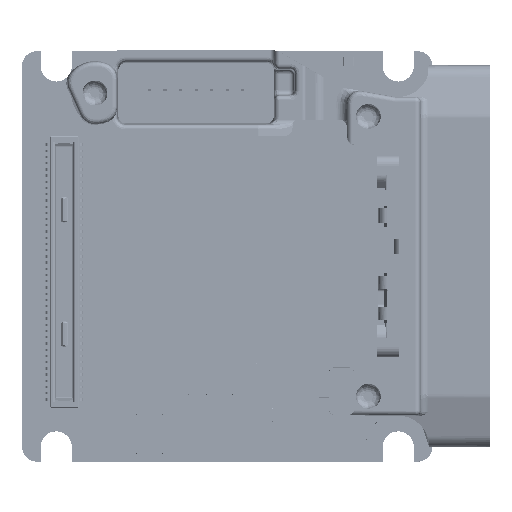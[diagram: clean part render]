
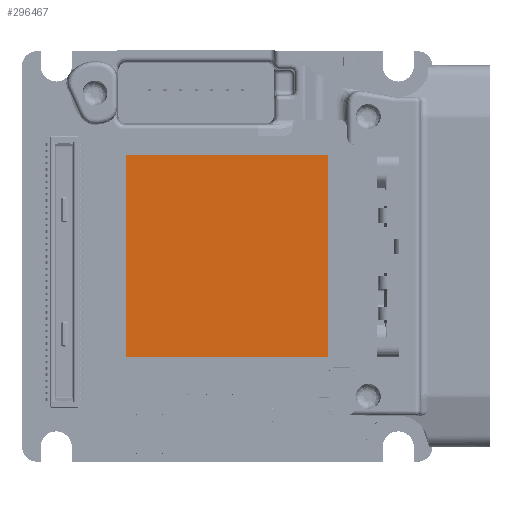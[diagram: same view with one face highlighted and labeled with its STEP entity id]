
A CAD part, top view. The second image highlights one B-rep face of the part: STEP entity #296467.
In plain terms, the highlighted planar face has unit normal (0, 0, 1).
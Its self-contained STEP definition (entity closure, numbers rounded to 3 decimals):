
#62181 = CARTESIAN_POINT ( 'NONE',  ( -6.5, -6.5, 6.162 ) ) ;
#84382 = EDGE_CURVE ( 'NONE', #136710, #723557, #286965, .T. ) ;
#97660 = ORIENTED_EDGE ( 'NONE', *, *, #153873, .F. ) ;
#136710 = VERTEX_POINT ( 'NONE', #412088 ) ;
#138622 = AXIS2_PLACEMENT_3D ( 'NONE', #614975, #550182, #270228 ) ;
#153873 = EDGE_CURVE ( 'NONE', #723557, #783860, #821286, .T. ) ;
#168299 = VERTEX_POINT ( 'NONE', #663587 ) ;
#180230 = ORIENTED_EDGE ( 'NONE', *, *, #84382, .F. ) ;
#238960 = CARTESIAN_POINT ( 'NONE',  ( -6.5, -6.5, 6.162 ) ) ;
#270228 = DIRECTION ( 'NONE',  ( 1., 0., 0. ) ) ;
#286965 = LINE ( 'NONE', #433513, #509190 ) ;
#296467 = ADVANCED_FACE ( 'NONE', ( #736003 ), #809161, .T. ) ;
#302094 = VECTOR ( 'NONE', #848197, 1000. ) ;
#307912 = CARTESIAN_POINT ( 'NONE',  ( -6.5, 6.5, 6.162 ) ) ;
#317098 = LINE ( 'NONE', #713876, #765451 ) ;
#327114 = VECTOR ( 'NONE', #639919, 1000. ) ;
#412088 = CARTESIAN_POINT ( 'NONE',  ( 6.5, -6.5, 6.162 ) ) ;
#425749 = ORIENTED_EDGE ( 'NONE', *, *, #767902, .F. ) ;
#433513 = CARTESIAN_POINT ( 'NONE',  ( 6.5, -6.5, 6.162 ) ) ;
#491302 = EDGE_CURVE ( 'NONE', #168299, #136710, #317098, .T. ) ;
#493830 = DIRECTION ( 'NONE',  ( -1., 0., 0. ) ) ;
#509190 = VECTOR ( 'NONE', #493830, 1000. ) ;
#550182 = DIRECTION ( 'NONE',  ( 0., 0., 1. ) ) ;
#614975 = CARTESIAN_POINT ( 'NONE',  ( -6.5, -6.5, 6.162 ) ) ;
#639919 = DIRECTION ( 'NONE',  ( 0., 1., 0. ) ) ;
#663587 = CARTESIAN_POINT ( 'NONE',  ( 6.5, 6.5, 6.162 ) ) ;
#713876 = CARTESIAN_POINT ( 'NONE',  ( 6.5, 6.5, 6.162 ) ) ;
#718666 = ORIENTED_EDGE ( 'NONE', *, *, #491302, .F. ) ;
#723255 = CARTESIAN_POINT ( 'NONE',  ( -6.5, 6.5, 6.162 ) ) ;
#723557 = VERTEX_POINT ( 'NONE', #62181 ) ;
#736003 = FACE_OUTER_BOUND ( 'NONE', #779767, .T. ) ;
#743506 = DIRECTION ( 'NONE',  ( 0., -1., 0. ) ) ;
#765451 = VECTOR ( 'NONE', #743506, 1000. ) ;
#767902 = EDGE_CURVE ( 'NONE', #783860, #168299, #787813, .T. ) ;
#779767 = EDGE_LOOP ( 'NONE', ( #180230, #718666, #425749, #97660 ) ) ;
#783860 = VERTEX_POINT ( 'NONE', #307912 ) ;
#787813 = LINE ( 'NONE', #723255, #302094 ) ;
#809161 = PLANE ( 'NONE',  #138622 ) ;
#821286 = LINE ( 'NONE', #238960, #327114 ) ;
#848197 = DIRECTION ( 'NONE',  ( 1., 0., 0. ) ) ;
